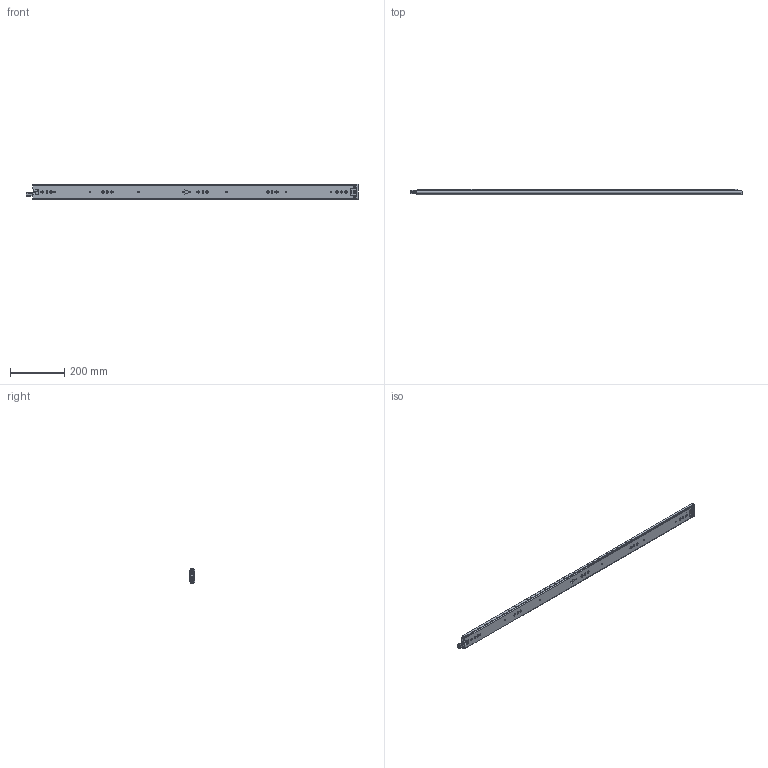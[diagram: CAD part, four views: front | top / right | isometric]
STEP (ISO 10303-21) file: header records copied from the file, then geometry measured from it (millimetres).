
FILE_DESCRIPTION((''),'2;1');
FILE_NAME('KP-57-01ZUZHUANGTU-48_ASM','2023-04-01T',('jishu015'),(''),'PRO/ENGINEER BY PARAMETRIC TECHNOLOGY CORPORATION, 2010280','PRO/ENGINEER BY PARAMETRIC TECHNOLOGY CORPORATION, 2010280','');
FILE_SCHEMA(('CONFIG_CONTROL_DESIGN'));
Products named in the file (22): KP-57-01WEIKE-18____; 1057WEIJIAO____; WAIKE___ASM; KP-57-01ZHONGGUI-18____; ZHONGGUIPEIJIAN-11__; ZHONGGUISUOKOU-11__; KP-57-01ZHONGGUI-18_____ASM; 1057XIAOZHUJIA____; 1057-5-6GANZHU____; 1057XIAOZHUJIA-14GE_____ASM; KP-57-01NEIGUI-18____; PJ-57-08__; DIAOPIAN-11__; 50XINSUOKOU-1__; TANHUANG__; 1053-3SBANJI122; JIAO11; KP-57-01NEIGUI-18_____ASM; 1053ZHUTIAO-175________; 53-5-6GANZHU________; 1053ZHUTIAO-175MM___ASM; KP-57-01ZUZHUANGTU-48_ASM
Assembly tree (130 placements, depth 3):
  KP-57-01ZUZHUANGTU-48_ASM
    WAIKE___ASM
      KP-57-01WEIKE-18____
      1057WEIJIAO____
    KP-57-01ZHONGGUI-18_____ASM
      KP-57-01ZHONGGUI-18____
      ZHONGGUIPEIJIAN-11__
      ZHONGGUISUOKOU-11__
    1057XIAOZHUJIA-14GE_____ASM
      1057XIAOZHUJIA____
      1057-5-6GANZHU____  x88
    KP-57-01NEIGUI-18_____ASM
      KP-57-01NEIGUI-18____
      PJ-57-08__
      DIAOPIAN-11__
      50XINSUOKOU-1__
      TANHUANG__
      1053-3SBANJI122
      JIAO11
    1053ZHUTIAO-175MM___ASM  x2
      1053ZHUTIAO-175________
      53-5-6GANZHU________
Bounding box: 1225.42 x 19.05 x 57.67 mm (x, y, z)
Volume: 530184 mm3; surface area: 579237.6 mm2
Topology: 149 solids, 149 shells, 3358 faces, 9738 edges, 6037 vertices
Faces by surface type: cylinder 1483, plane 1316, sphere 275, bspline 152, cone 86, torus 23, extrusion 23
Entity records: 106575 total; most frequent: CARTESIAN_POINT 26101, ORIENTED_EDGE 17040, DIRECTION 16603, EDGE_CURVE 8520, AXIS2_PLACEMENT_3D 5739, VERTEX_POINT 5497, VECTOR 5125, LINE 5102
